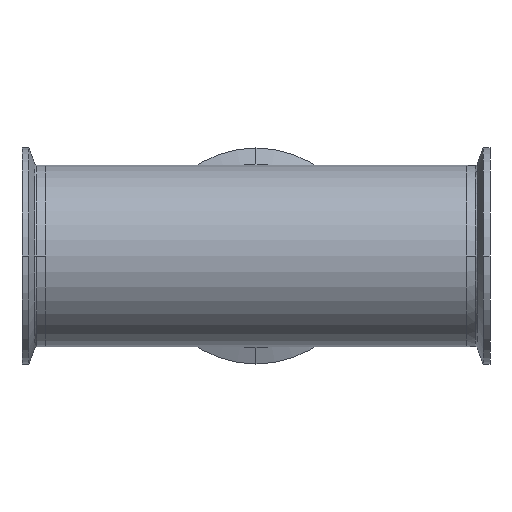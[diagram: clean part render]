
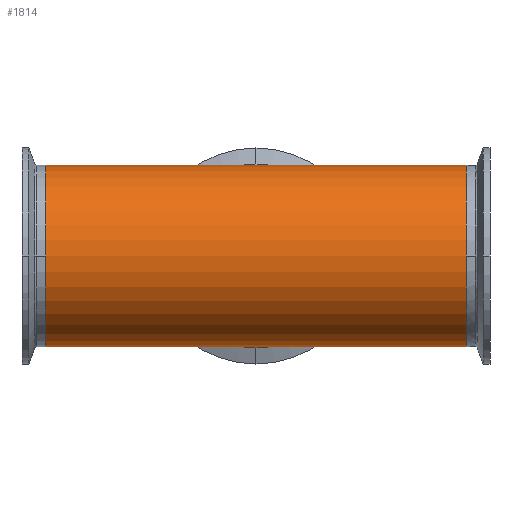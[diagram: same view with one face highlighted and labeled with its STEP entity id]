
A CAD part, front view. The second image highlights one B-rep face of the part: STEP entity #1814.
In plain terms, the highlighted cylindrical face has radius 38.1 mm (diameter 76.2 mm), a partial arc.
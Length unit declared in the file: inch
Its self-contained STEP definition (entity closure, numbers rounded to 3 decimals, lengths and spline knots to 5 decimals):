
#17 = ORIENTED_EDGE ( 'NONE', *, *, #3167, .T. ) ;
#166 = VERTEX_POINT ( 'NONE', #420 ) ;
#312 = CARTESIAN_POINT ( 'NONE',  ( -3.48031, 0., -1.5 ) ) ;
#342 = EDGE_LOOP ( 'NONE', ( #1880, #17, #1888, #2844, #2791, #2783 ) ) ;
#344 = CIRCLE ( 'NONE', #4453, 1.5 ) ;
#356 = DIRECTION ( 'NONE',  ( 0., 0., 1. ) ) ;
#420 = CARTESIAN_POINT ( 'NONE',  ( -3.48031, 0., 1.5 ) ) ;
#456 = DIRECTION ( 'NONE',  ( -1., 0., 0. ) ) ;
#567 = AXIS2_PLACEMENT_3D ( 'NONE', #1702, #4366, #1391 ) ;
#775 = EDGE_CURVE ( 'NONE', #166, #1075, #3366, .T. ) ;
#943 = CARTESIAN_POINT ( 'NONE',  ( 3.48031, 0., 0. ) ) ;
#979 = EDGE_CURVE ( 'NONE', #2845, #4526, #1196, .T. ) ;
#1022 = CARTESIAN_POINT ( 'NONE',  ( 3.48031, 0., -1.5 ) ) ;
#1075 = VERTEX_POINT ( 'NONE', #312 ) ;
#1196 = LINE ( 'NONE', #4007, #2779 ) ;
#1215 = LINE ( 'NONE', #2807, #3151 ) ;
#1353 = FACE_OUTER_BOUND ( 'NONE', #342, .T. ) ;
#1369 = DIRECTION ( 'NONE',  ( 0., 0., 1. ) ) ;
#1391 = DIRECTION ( 'NONE',  ( 0., 0., 1. ) ) ;
#1580 = EDGE_CURVE ( 'NONE', #4526, #1075, #1215, .T. ) ;
#1702 = CARTESIAN_POINT ( 'NONE',  ( -3.48031, 0., 0. ) ) ;
#1709 = VECTOR ( 'NONE', #4790, 39.37008 ) ;
#1814 = ADVANCED_FACE ( 'NONE', ( #1353 ), #4095, .T. ) ;
#1880 = ORIENTED_EDGE ( 'NONE', *, *, #979, .F. ) ;
#1888 = ORIENTED_EDGE ( 'NONE', *, *, #2969, .T. ) ;
#2057 = AXIS2_PLACEMENT_3D ( 'NONE', #3078, #3462, #356 ) ;
#2260 = DIRECTION ( 'NONE',  ( -1., 0., 0. ) ) ;
#2557 = CARTESIAN_POINT ( 'NONE',  ( 3.48031, 0., 1.5 ) ) ;
#2610 = CARTESIAN_POINT ( 'NONE',  ( 7.72296, 0., 1.5 ) ) ;
#2779 = VECTOR ( 'NONE', #3328, 39.37008 ) ;
#2783 = ORIENTED_EDGE ( 'NONE', *, *, #1580, .F. ) ;
#2791 = ORIENTED_EDGE ( 'NONE', *, *, #775, .T. ) ;
#2807 = CARTESIAN_POINT ( 'NONE',  ( 7.72296, 0., -1.5 ) ) ;
#2844 = ORIENTED_EDGE ( 'NONE', *, *, #3682, .T. ) ;
#2845 = VERTEX_POINT ( 'NONE', #1022 ) ;
#2969 = EDGE_CURVE ( 'NONE', #3321, #3660, #4598, .T. ) ;
#3078 = CARTESIAN_POINT ( 'NONE',  ( 7.72296, 0., 0. ) ) ;
#3151 = VECTOR ( 'NONE', #456, 39.37008 ) ;
#3167 = EDGE_CURVE ( 'NONE', #2845, #3321, #344, .T. ) ;
#3321 = VERTEX_POINT ( 'NONE', #2557 ) ;
#3328 = DIRECTION ( 'NONE',  ( -1., 0., 0. ) ) ;
#3366 = CIRCLE ( 'NONE', #567, 1.5 ) ;
#3382 = CARTESIAN_POINT ( 'NONE',  ( 0., 0., 1.5 ) ) ;
#3462 = DIRECTION ( 'NONE',  ( -1., 0., 0. ) ) ;
#3546 = VECTOR ( 'NONE', #2260, 39.37008 ) ;
#3628 = DIRECTION ( 'NONE',  ( -1., 0., 0. ) ) ;
#3660 = VERTEX_POINT ( 'NONE', #3382 ) ;
#3682 = EDGE_CURVE ( 'NONE', #3660, #166, #3696, .T. ) ;
#3696 = LINE ( 'NONE', #4431, #1709 ) ;
#3978 = CARTESIAN_POINT ( 'NONE',  ( 0., 0., -1.5 ) ) ;
#4007 = CARTESIAN_POINT ( 'NONE',  ( 7.72296, 0., -1.5 ) ) ;
#4095 = CYLINDRICAL_SURFACE ( 'NONE', #2057, 1.5 ) ;
#4366 = DIRECTION ( 'NONE',  ( 1., 0., 0. ) ) ;
#4431 = CARTESIAN_POINT ( 'NONE',  ( 7.72296, 0., 1.5 ) ) ;
#4453 = AXIS2_PLACEMENT_3D ( 'NONE', #943, #3628, #1369 ) ;
#4526 = VERTEX_POINT ( 'NONE', #3978 ) ;
#4598 = LINE ( 'NONE', #2610, #3546 ) ;
#4790 = DIRECTION ( 'NONE',  ( -1., 0., 0. ) ) ;
